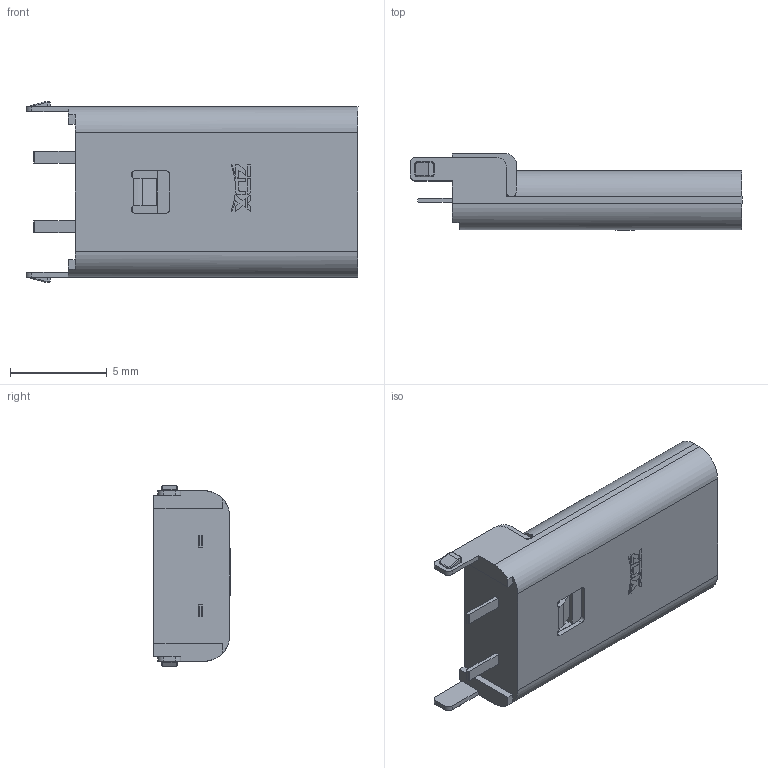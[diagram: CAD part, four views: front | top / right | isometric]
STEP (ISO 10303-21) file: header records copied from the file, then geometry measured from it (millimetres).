
FILE_DESCRIPTION((''),'2;1');
FILE_NAME('ASM0001_ASM','2024-01-29T',('WYH'),(''),'PRO/ENGINEER BY PARAMETRIC TECHNOLOGY CORPORATION, 2013040','PRO/ENGINEER BY PARAMETRIC TECHNOLOGY CORPORATION, 2013040','');
FILE_SCHEMA(('CONFIG_CONTROL_DESIGN'));
Length unit declared in the file: millimetre
Products named in the file (1): ASM0001_ASM
Bounding box: 17.2 x 3.95 x 9.34 mm (x, y, z)
Volume: 282.9 mm3; surface area: 702.3 mm2
Topology: 1 solids, 30 shells, 491 faces, 1389 edges, 946 vertices
Faces by surface type: plane 331, cylinder 140, bspline 8, cone 8, torus 4
Entity records: 16229 total; most frequent: CARTESIAN_POINT 3709, ORIENTED_EDGE 2538, DIRECTION 2451, EDGE_CURVE 1389, VECTOR 1017, LINE 1017, VERTEX_POINT 946, AXIS2_PLACEMENT_3D 717
